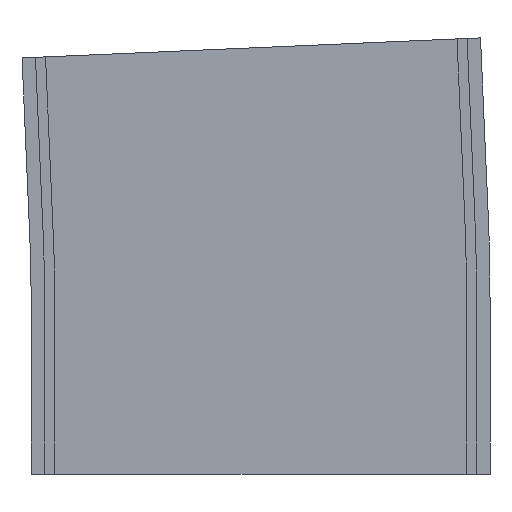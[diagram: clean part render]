
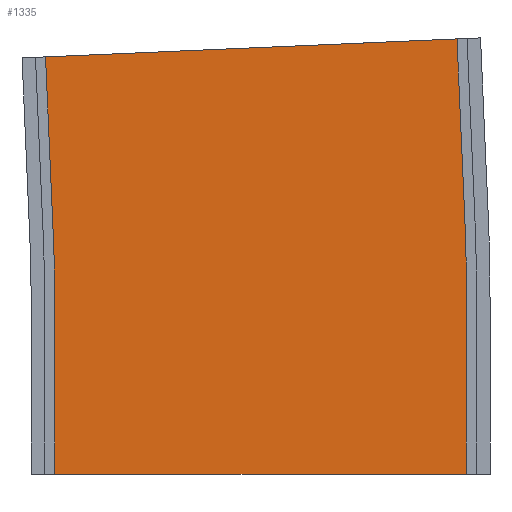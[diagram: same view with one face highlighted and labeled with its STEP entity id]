
A CAD part, left-side view. The second image highlights one B-rep face of the part: STEP entity #1335.
In plain terms, the highlighted planar face has unit normal (-1, 0, 0).
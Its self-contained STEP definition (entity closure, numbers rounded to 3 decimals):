
#11 = VERTEX_POINT ( 'NONE', #1181 ) ;
#15 = ORIENTED_EDGE ( 'NONE', *, *, #912, .F. ) ;
#34 = VECTOR ( 'NONE', #47, 1000. ) ;
#47 = DIRECTION ( 'NONE',  ( 0., 0., -1. ) ) ;
#74 = LINE ( 'NONE', #955, #840 ) ;
#83 = DIRECTION ( 'NONE',  ( 1., 0., 0. ) ) ;
#122 = EDGE_CURVE ( 'NONE', #728, #820, #443, .T. ) ;
#124 = CARTESIAN_POINT ( 'NONE',  ( -173., -60.716, 76.981 ) ) ;
#144 = DIRECTION ( 'NONE',  ( -1., 0., 0. ) ) ;
#151 = CARTESIAN_POINT ( 'NONE',  ( -173., -61.25, 0. ) ) ;
#156 = CARTESIAN_POINT ( 'NONE',  ( -173., 61.668, 71.638 ) ) ;
#203 = CARTESIAN_POINT ( 'NONE',  ( -173., 61.25, 0. ) ) ;
#239 = VERTEX_POINT ( 'NONE', #156 ) ;
#245 = CARTESIAN_POINT ( 'NONE',  ( -173., -60.716, 76.981 ) ) ;
#253 = DIRECTION ( 'NONE',  ( 0., -1., 0. ) ) ;
#264 = CARTESIAN_POINT ( 'NONE',  ( -173., -58.426, 129.431 ) ) ;
#292 = LINE ( 'NONE', #1017, #34 ) ;
#296 = PLANE ( 'NONE',  #498 ) ;
#325 = VECTOR ( 'NONE', #253, 1000. ) ;
#385 = CARTESIAN_POINT ( 'NONE',  ( -173., 500., 52.5 ) ) ;
#404 = DIRECTION ( 'NONE',  ( 0., 0., 1. ) ) ;
#431 = VERTEX_POINT ( 'NONE', #517 ) ;
#443 = LINE ( 'NONE', #124, #1343 ) ;
#462 = CARTESIAN_POINT ( 'NONE',  ( -173., 500., 52.5 ) ) ;
#493 = CARTESIAN_POINT ( 'NONE',  ( -173., 61.668, 71.638 ) ) ;
#498 = AXIS2_PLACEMENT_3D ( 'NONE', #936, #83, #606 ) ;
#509 = VERTEX_POINT ( 'NONE', #1297 ) ;
#513 = DIRECTION ( 'NONE',  ( -1., 0., 0. ) ) ;
#517 = CARTESIAN_POINT ( 'NONE',  ( -173., -61.25, 52.5 ) ) ;
#532 = EDGE_CURVE ( 'NONE', #509, #820, #74, .T. ) ;
#547 = ORIENTED_EDGE ( 'NONE', *, *, #532, .F. ) ;
#552 = EDGE_LOOP ( 'NONE', ( #845, #15, #1095, #993, #547, #570, #763, #1254 ) ) ;
#570 = ORIENTED_EDGE ( 'NONE', *, *, #1350, .F. ) ;
#606 = DIRECTION ( 'NONE',  ( 0., 1., 0. ) ) ;
#632 = VERTEX_POINT ( 'NONE', #1291 ) ;
#636 = DIRECTION ( 'NONE',  ( 0., -0.999, 0.044 ) ) ;
#668 = AXIS2_PLACEMENT_3D ( 'NONE', #385, #513, #404 ) ;
#728 = VERTEX_POINT ( 'NONE', #245 ) ;
#736 = LINE ( 'NONE', #1053, #1266 ) ;
#761 = AXIS2_PLACEMENT_3D ( 'NONE', #462, #144, #1217 ) ;
#763 = ORIENTED_EDGE ( 'NONE', *, *, #1331, .F. ) ;
#768 = CIRCLE ( 'NONE', #668, 438.75 ) ;
#819 = EDGE_CURVE ( 'NONE', #1121, #632, #1379, .T. ) ;
#820 = VERTEX_POINT ( 'NONE', #264 ) ;
#840 = VECTOR ( 'NONE', #636, 1000. ) ;
#845 = ORIENTED_EDGE ( 'NONE', *, *, #819, .T. ) ;
#889 = EDGE_CURVE ( 'NONE', #431, #728, #966, .T. ) ;
#912 = EDGE_CURVE ( 'NONE', #431, #632, #292, .T. ) ;
#936 = CARTESIAN_POINT ( 'NONE',  ( -173., -61.25, 52.5 ) ) ;
#955 = CARTESIAN_POINT ( 'NONE',  ( -173., -58.426, 129.431 ) ) ;
#966 = CIRCLE ( 'NONE', #761, 561.25 ) ;
#986 = EDGE_CURVE ( 'NONE', #11, #1121, #736, .T. ) ;
#993 = ORIENTED_EDGE ( 'NONE', *, *, #122, .T. ) ;
#998 = FACE_OUTER_BOUND ( 'NONE', #552, .T. ) ;
#1017 = CARTESIAN_POINT ( 'NONE',  ( -173., -61.25, 52.5 ) ) ;
#1053 = CARTESIAN_POINT ( 'NONE',  ( -173., 61.25, 52.5 ) ) ;
#1095 = ORIENTED_EDGE ( 'NONE', *, *, #889, .T. ) ;
#1098 = DIRECTION ( 'NONE',  ( 0., 0.044, 0.999 ) ) ;
#1121 = VERTEX_POINT ( 'NONE', #203 ) ;
#1181 = CARTESIAN_POINT ( 'NONE',  ( -173., 61.25, 52.5 ) ) ;
#1217 = DIRECTION ( 'NONE',  ( 0., 0., 1. ) ) ;
#1227 = VECTOR ( 'NONE', #1389, 1000. ) ;
#1244 = DIRECTION ( 'NONE',  ( 0., 0., -1. ) ) ;
#1254 = ORIENTED_EDGE ( 'NONE', *, *, #986, .T. ) ;
#1266 = VECTOR ( 'NONE', #1244, 1000. ) ;
#1291 = CARTESIAN_POINT ( 'NONE',  ( -173., -61.25, 0. ) ) ;
#1297 = CARTESIAN_POINT ( 'NONE',  ( -173., 63.958, 124.088 ) ) ;
#1317 = LINE ( 'NONE', #493, #1227 ) ;
#1331 = EDGE_CURVE ( 'NONE', #11, #239, #768, .T. ) ;
#1335 = ADVANCED_FACE ( 'NONE', ( #998 ), #296, .F. ) ;
#1343 = VECTOR ( 'NONE', #1098, 1000. ) ;
#1350 = EDGE_CURVE ( 'NONE', #239, #509, #1317, .T. ) ;
#1379 = LINE ( 'NONE', #151, #325 ) ;
#1389 = DIRECTION ( 'NONE',  ( 0., 0.044, 0.999 ) ) ;
